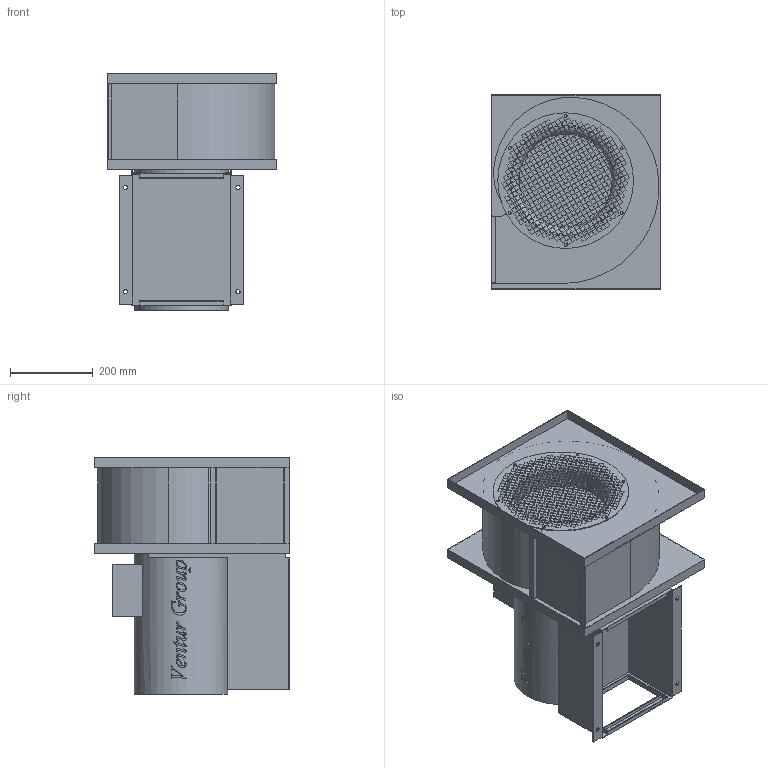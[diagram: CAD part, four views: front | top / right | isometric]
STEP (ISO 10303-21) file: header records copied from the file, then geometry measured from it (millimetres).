
FILE_DESCRIPTION(/* description */ (''),/* implementation_level */ '2;1');
FILE_NAME(/* name */ 'E:\Mariusz\Modele uproszczone\LFB\LFB_2_280_102 435011040\LFB_2_280_102 435011040\LFB_2_280_102 435011040.stp',/* time_stamp */ '2018-07-06T10:00:14+02:00',/* author */ ('M.Janczarek'),/* organization */ (''),/* preprocessor_version */ 'ST-DEVELOPER v16.5',/* originating_system */ 'Autodesk Inventor 2017',/* authorisation */ '');
FILE_SCHEMA (('AUTOMOTIVE_DESIGN { 1 0 10303 214 3 1 1 }'));
Products named in the file (1): LFB_2_280_102 435011040
Bounding box: 410 x 470 x 572 mm (x, y, z)
Volume: 41624620.2 mm3; surface area: 1797438.1 mm2
Topology: 1 solids, 1 shells, 3065 faces, 9041 edges, 6027 vertices
Faces by surface type: plane 2594, bspline 391, cylinder 55, torus 25
Full cylindrical faces by diameter (mm): 7.1 x6, 10 x4, 225 x1, 226 x1, 328 x1, 332 x1
Entity records: 112102 total; most frequent: CARTESIAN_POINT 27983, ORIENTED_EDGE 18028, DIRECTION 14136, EDGE_CURVE 9014, LINE 7734, VECTOR 7734, VERTEX_POINT 6016, EDGE_LOOP 4094
